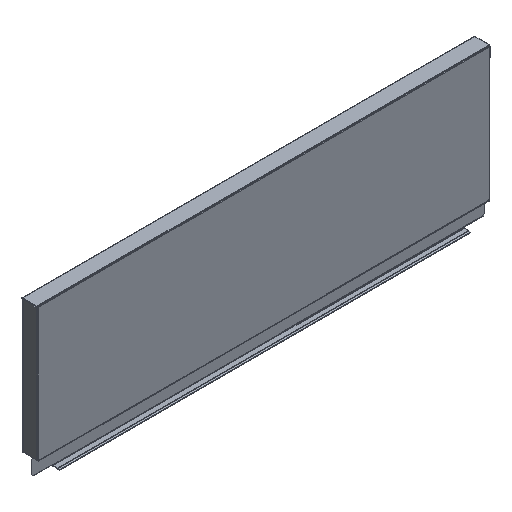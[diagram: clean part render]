
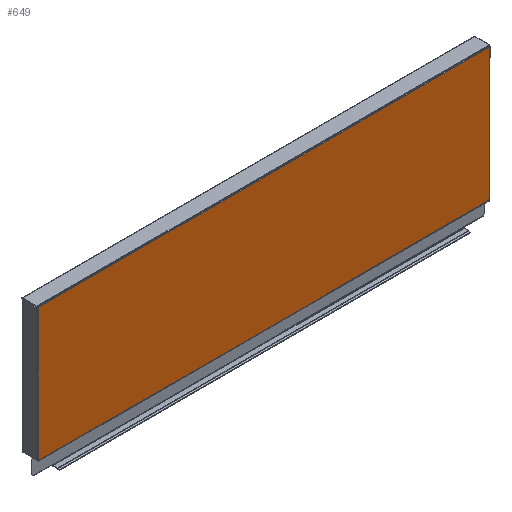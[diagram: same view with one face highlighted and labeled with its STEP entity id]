
A CAD part, isometric view. The second image highlights one B-rep face of the part: STEP entity #649.
In plain terms, the highlighted planar face has unit normal (0, -1, 0).
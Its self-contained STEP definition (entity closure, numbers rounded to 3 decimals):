
#1 = CARTESIAN_POINT ( 'NONE',  ( -230., -6., 17. ) ) ;
#2 = DIRECTION ( 'NONE',  ( 1., 0., 0. ) ) ;
#3 = CARTESIAN_POINT ( 'NONE',  ( 228.5, -6., 15.3 ) ) ;
#6 = CARTESIAN_POINT ( 'NONE',  ( 228.5, -6., 17.5 ) ) ;
#12 = DIRECTION ( 'NONE',  ( 0., 0., -1. ) ) ;
#13 = CARTESIAN_POINT ( 'NONE',  ( 229., -6., 170.385 ) ) ;
#14 = DIRECTION ( 'NONE',  ( 0., 0., -1. ) ) ;
#26 = VERTEX_POINT ( 'NONE', #468 ) ;
#57 = VERTEX_POINT ( 'NONE', #457 ) ;
#63 = VERTEX_POINT ( 'NONE', #454 ) ;
#75 = VERTEX_POINT ( 'NONE', #448 ) ;
#249 = CARTESIAN_POINT ( 'NONE',  ( 229., -6., 170.385 ) ) ;
#252 = DIRECTION ( 'NONE',  ( 1., 0., 0. ) ) ;
#259 = CARTESIAN_POINT ( 'NONE',  ( -230., -6., 152. ) ) ;
#281 = DIRECTION ( 'NONE',  ( 0., 0., -1. ) ) ;
#300 = DIRECTION ( 'NONE',  ( 1., 0., 0. ) ) ;
#301 = DIRECTION ( 'NONE',  ( 0., -1., 0. ) ) ;
#302 = CARTESIAN_POINT ( 'NONE',  ( -230., -6., 17. ) ) ;
#303 = PLANE ( 'NONE',  #1277 ) ;
#305 = CARTESIAN_POINT ( 'NONE',  ( -229., -6., 170.385 ) ) ;
#337 = CARTESIAN_POINT ( 'NONE',  ( -229., -6., 151.5 ) ) ;
#340 = CARTESIAN_POINT ( 'NONE',  ( 228.5, -6., 17. ) ) ;
#342 = CARTESIAN_POINT ( 'NONE',  ( -229., -6., 17.5 ) ) ;
#352 = CARTESIAN_POINT ( 'NONE',  ( 229., -6., 151.5 ) ) ;
#357 = CARTESIAN_POINT ( 'NONE',  ( 228.5, -6., 17.5 ) ) ;
#370 = CARTESIAN_POINT ( 'NONE',  ( 229., -6., 17.5 ) ) ;
#448 = CARTESIAN_POINT ( 'NONE',  ( -228.5, -6., 17. ) ) ;
#454 = CARTESIAN_POINT ( 'NONE',  ( 229., -6., 152. ) ) ;
#457 = CARTESIAN_POINT ( 'NONE',  ( -228.5, -6., 17.5 ) ) ;
#468 = CARTESIAN_POINT ( 'NONE',  ( -229., -6., 152. ) ) ;
#493 = VERTEX_POINT ( 'NONE', #370 ) ;
#518 = VERTEX_POINT ( 'NONE', #357 ) ;
#523 = VERTEX_POINT ( 'NONE', #352 ) ;
#533 = VERTEX_POINT ( 'NONE', #342 ) ;
#535 = VERTEX_POINT ( 'NONE', #340 ) ;
#538 = VERTEX_POINT ( 'NONE', #337 ) ;
#559 = DIRECTION ( 'NONE',  ( 1., 0., 0. ) ) ;
#560 = CARTESIAN_POINT ( 'NONE',  ( -228.5, -6., 17.5 ) ) ;
#561 = DIRECTION ( 'NONE',  ( 0., 0., -1. ) ) ;
#562 = CARTESIAN_POINT ( 'NONE',  ( -230., -6., 17.5 ) ) ;
#563 = DIRECTION ( 'NONE',  ( 1., 0., 0. ) ) ;
#564 = CARTESIAN_POINT ( 'NONE',  ( -229., -6., 170.385 ) ) ;
#565 = DIRECTION ( 'NONE',  ( 0., 0., -1. ) ) ;
#649 = ADVANCED_FACE ( 'NONE', ( #2007 ), #303, .T. ) ;
#871 = EDGE_LOOP ( 'NONE', ( #1975, #1974, #1973, #1972, #1971, #1970, #1969, #1968, #1967, #1966 ) ) ;
#1257 = EDGE_CURVE ( 'NONE', #26, #538, #2407, .T. ) ;
#1258 = EDGE_CURVE ( 'NONE', #26, #63, #2409, .T. ) ;
#1259 = EDGE_CURVE ( 'NONE', #63, #523, #2411, .T. ) ;
#1260 = EDGE_CURVE ( 'NONE', #523, #493, #2413, .T. ) ;
#1261 = EDGE_CURVE ( 'NONE', #518, #493, #2415, .T. ) ;
#1262 = EDGE_CURVE ( 'NONE', #535, #518, #2417, .T. ) ;
#1263 = EDGE_CURVE ( 'NONE', #75, #535, #2419, .T. ) ;
#1264 = EDGE_CURVE ( 'NONE', #57, #75, #2421, .T. ) ;
#1265 = EDGE_CURVE ( 'NONE', #533, #57, #2423, .T. ) ;
#1266 = EDGE_CURVE ( 'NONE', #538, #533, #2425, .T. ) ;
#1277 = AXIS2_PLACEMENT_3D ( 'NONE', #302, #301, #300 ) ;
#1966 = ORIENTED_EDGE ( 'NONE', *, *, #1257, .T. ) ;
#1967 = ORIENTED_EDGE ( 'NONE', *, *, #1258, .F. ) ;
#1968 = ORIENTED_EDGE ( 'NONE', *, *, #1259, .F. ) ;
#1969 = ORIENTED_EDGE ( 'NONE', *, *, #1260, .F. ) ;
#1970 = ORIENTED_EDGE ( 'NONE', *, *, #1261, .T. ) ;
#1971 = ORIENTED_EDGE ( 'NONE', *, *, #1262, .T. ) ;
#1972 = ORIENTED_EDGE ( 'NONE', *, *, #1263, .T. ) ;
#1973 = ORIENTED_EDGE ( 'NONE', *, *, #1264, .T. ) ;
#1974 = ORIENTED_EDGE ( 'NONE', *, *, #1265, .T. ) ;
#1975 = ORIENTED_EDGE ( 'NONE', *, *, #1266, .T. ) ;
#2007 = FACE_OUTER_BOUND ( 'NONE', #871, .T. ) ;
#2407 = LINE ( 'NONE', #305, #2408 ) ;
#2408 = VECTOR ( 'NONE', #281, 1000. ) ;
#2409 = LINE ( 'NONE', #259, #2410 ) ;
#2410 = VECTOR ( 'NONE', #252, 1000. ) ;
#2411 = LINE ( 'NONE', #249, #2412 ) ;
#2412 = VECTOR ( 'NONE', #14, 1000. ) ;
#2413 = LINE ( 'NONE', #13, #2414 ) ;
#2414 = VECTOR ( 'NONE', #12, 1000. ) ;
#2415 = LINE ( 'NONE', #6, #2416 ) ;
#2416 = VECTOR ( 'NONE', #2, 1000. ) ;
#2417 = LINE ( 'NONE', #3, #2418 ) ;
#2418 = VECTOR ( 'NONE', #2484, 1000. ) ;
#2419 = LINE ( 'NONE', #1, #2420 ) ;
#2420 = VECTOR ( 'NONE', #559, 1000. ) ;
#2421 = LINE ( 'NONE', #560, #2422 ) ;
#2422 = VECTOR ( 'NONE', #561, 1000. ) ;
#2423 = LINE ( 'NONE', #562, #2424 ) ;
#2424 = VECTOR ( 'NONE', #563, 1000. ) ;
#2425 = LINE ( 'NONE', #564, #2426 ) ;
#2426 = VECTOR ( 'NONE', #565, 1000. ) ;
#2484 = DIRECTION ( 'NONE',  ( 0., 0., 1. ) ) ;
